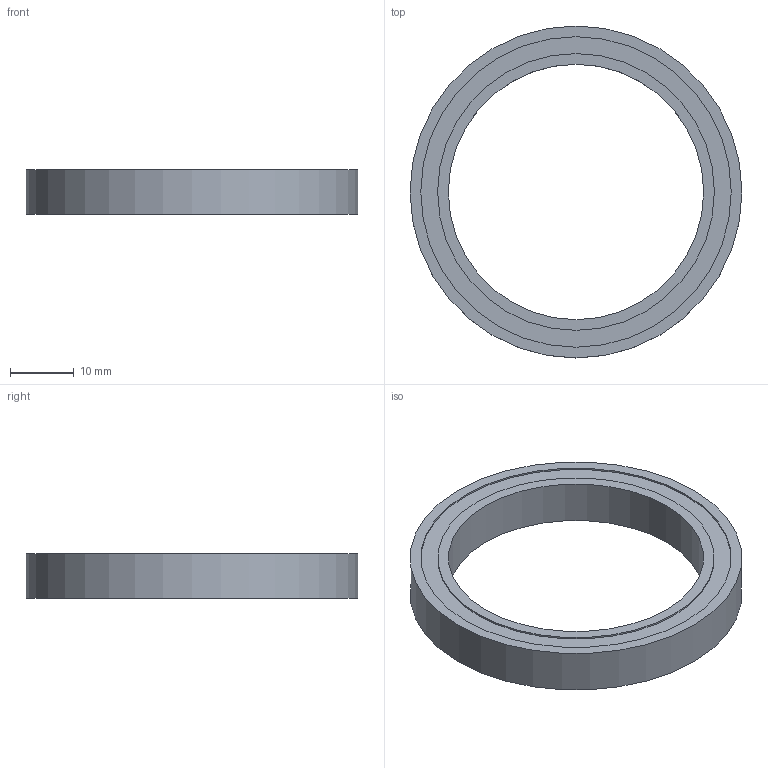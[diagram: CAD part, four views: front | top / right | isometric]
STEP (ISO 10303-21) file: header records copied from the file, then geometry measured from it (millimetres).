
FILE_DESCRIPTION(('Open CASCADE Model'),'2;1');
FILE_NAME('Open CASCADE Shape Model','2026-11-01T16:34:14',('Author'),( 'Open CASCADE'),'Open CASCADE STEP processor 8.0','build123d', 'Unknown');
FILE_SCHEMA(('AUTOMOTIVE_DESIGN { 1 0 10303 214 1 1 1 1 }'));
Length unit declared in the file: millimetre
Products named in the file (2): =>[0:1:1:2]; SOLID
Assembly tree (1 placements, depth 2):
  =>[0:1:1:2]
    SOLID
Bounding box: 52 x 52 x 7 mm (x, y, z)
Volume: 5878.8 mm3; surface area: 3901.9 mm2
Topology: 1 solids, 1 shells, 12 faces, 18 edges, 12 vertices
Faces by surface type: cylinder 6, plane 6
Full cylindrical faces by diameter (mm): 40 x1, 43.36 x2, 48.64 x2, 52 x1
Entity records: 540 total; most frequent: DIRECTION 94, CARTESIAN_POINT 80, ORIENTED_EDGE 36, PCURVE 36, DEFINITIONAL_REPRESENTATION 36, LINE 30, VECTOR 30, AXIS2_PLACEMENT_3D 26
